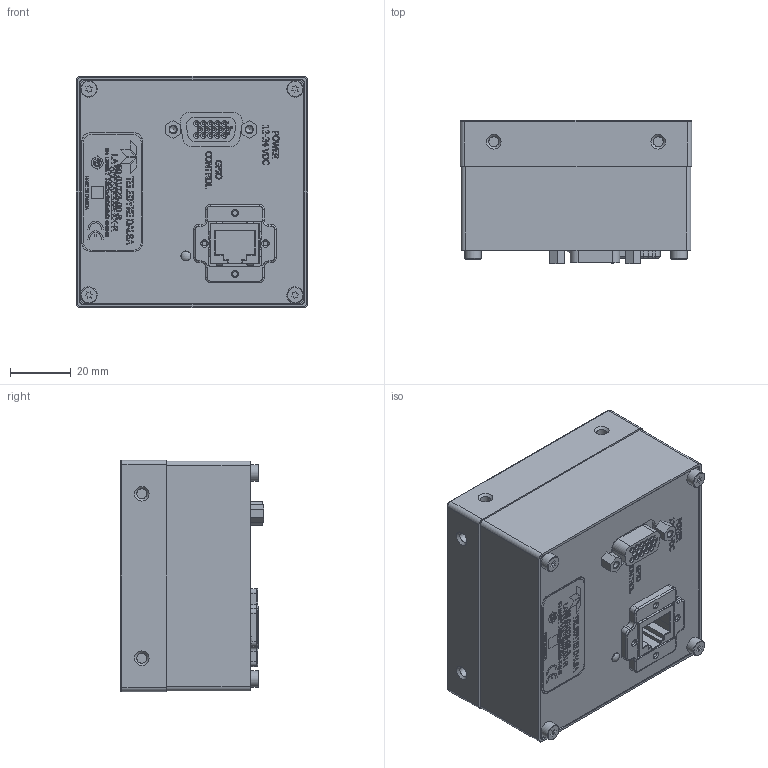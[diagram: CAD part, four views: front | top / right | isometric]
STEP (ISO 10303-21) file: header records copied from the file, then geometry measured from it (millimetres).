
FILE_DESCRIPTION(/* description */ (''),/* implementation_level */ '2;1');
FILE_NAME(/* name */ 'C:\_01_DME_Vault\_01_DME_Vault_Projects\SYMPHONY\03-129-20162-00 SYMPHONY 8K GIGE CUSTOMER DRAWING\03-129-20162-00 SYMPHONY 8K GIGE MODEL FOR STEP FILE NEW.stp',/* time_stamp */ '2015-05-14T16:23:08-04:00',/* author */ ('kliem'),/* organization */ (''),/* preprocessor_version */ 'ST-DEVELOPER v15.2',/* originating_system */ 'Autodesk Inventor 2014',/* authorisation */ '');
FILE_SCHEMA (('CONFIG_CONTROL_DESIGN'));
Products named in the file (1): 03-129-20162-00 SYMPHONY 8K GIGE MODEL FOR STEP FILE NEW
Bounding box: 76 x 46.98 x 76 mm (x, y, z)
Volume: 82859 mm3; surface area: 63105.4 mm2
Topology: 2 solids, 25 shells, 3541 faces, 9415 edges, 6260 vertices
Faces by surface type: plane 2258, bspline 930, cylinder 268, cone 64, torus 20, sphere 1
Full cylindrical faces by diameter (mm): 0.092 x1, 0.17 x2, 0.762 x5, 0.864 x10, 1.567 x4, 1.829 x15, 2 x1, 2.013 x4, 2.329 x2, 2.459 x4, 2.715 x2, 2.82 x1, 2.845 x1, 2.92 x1, 3 x4, 3.242 x12, 3.454 x2, 3.5 x4, 5 x4, 5.4 x4, 70.95 x1, 73 x1
Entity records: 121031 total; most frequent: CARTESIAN_POINT 36562, ORIENTED_EDGE 18428, DIRECTION 13055, EDGE_CURVE 9208, LINE 6687, VECTOR 6687, VERTEX_POINT 6180, EDGE_LOOP 4060
